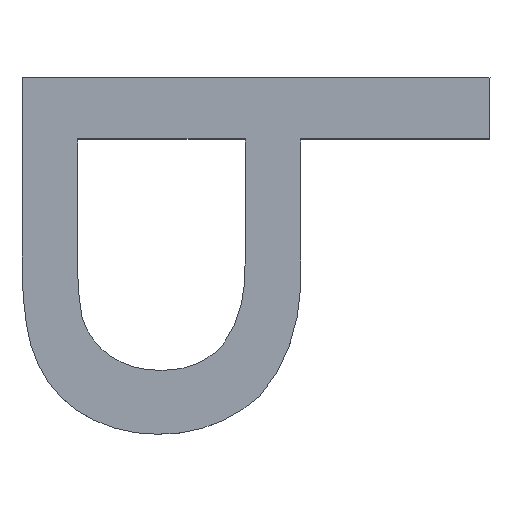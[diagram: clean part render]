
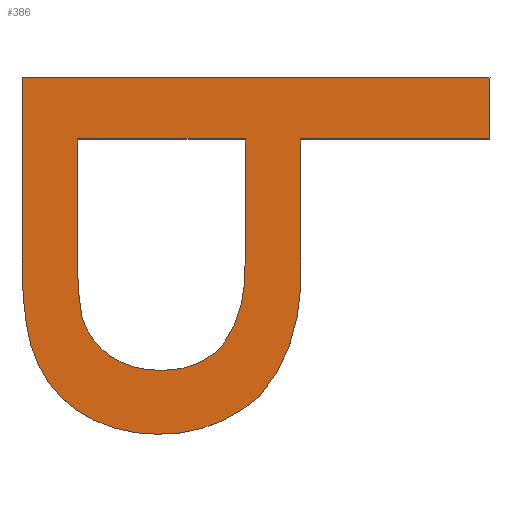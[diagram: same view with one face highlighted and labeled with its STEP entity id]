
A CAD part, top view. The second image highlights one B-rep face of the part: STEP entity #386.
In plain terms, the highlighted planar face has unit normal (0, 0, 1).
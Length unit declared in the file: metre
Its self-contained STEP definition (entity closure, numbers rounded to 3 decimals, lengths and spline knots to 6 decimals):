
#13=CIRCLE('',#399,0.000452);
#15=CIRCLE('',#402,0.000346);
#17=CIRCLE('',#405,0.000347);
#19=CIRCLE('',#408,0.000276);
#21=CIRCLE('',#411,0.000337);
#23=CIRCLE('',#414,0.001055);
#25=CIRCLE('',#421,0.000694);
#27=CIRCLE('',#424,0.000166);
#29=CIRCLE('',#427,0.000203);
#31=CIRCLE('',#430,0.000191);
#33=CIRCLE('',#433,0.000319);
#134=ORIENTED_EDGE('',*,*,#204,.T.);
#135=ORIENTED_EDGE('',*,*,#202,.T.);
#136=ORIENTED_EDGE('',*,*,#199,.T.);
#137=ORIENTED_EDGE('',*,*,#196,.T.);
#138=ORIENTED_EDGE('',*,*,#193,.T.);
#139=ORIENTED_EDGE('',*,*,#190,.T.);
#140=ORIENTED_EDGE('',*,*,#187,.T.);
#141=ORIENTED_EDGE('',*,*,#184,.T.);
#142=ORIENTED_EDGE('',*,*,#181,.T.);
#143=ORIENTED_EDGE('',*,*,#178,.T.);
#144=ORIENTED_EDGE('',*,*,#175,.T.);
#145=ORIENTED_EDGE('',*,*,#228,.T.);
#146=ORIENTED_EDGE('',*,*,#226,.T.);
#147=ORIENTED_EDGE('',*,*,#223,.T.);
#148=ORIENTED_EDGE('',*,*,#220,.T.);
#149=ORIENTED_EDGE('',*,*,#217,.T.);
#150=ORIENTED_EDGE('',*,*,#214,.T.);
#151=ORIENTED_EDGE('',*,*,#211,.T.);
#152=ORIENTED_EDGE('',*,*,#208,.T.);
#175=EDGE_CURVE('',#229,#232,#270,.T.);
#178=EDGE_CURVE('',#233,#229,#273,.F.);
#181=EDGE_CURVE('',#235,#233,#276,.F.);
#184=EDGE_CURVE('',#237,#235,#278,.F.);
#187=EDGE_CURVE('',#239,#237,#13,.F.);
#190=EDGE_CURVE('',#241,#239,#15,.F.);
#193=EDGE_CURVE('',#243,#241,#17,.F.);
#196=EDGE_CURVE('',#245,#243,#19,.F.);
#199=EDGE_CURVE('',#247,#245,#21,.F.);
#202=EDGE_CURVE('',#249,#247,#23,.F.);
#204=EDGE_CURVE('',#232,#249,#280,.T.);
#208=EDGE_CURVE('',#251,#254,#283,.T.);
#211=EDGE_CURVE('',#255,#251,#286,.F.);
#214=EDGE_CURVE('',#257,#255,#288,.F.);
#217=EDGE_CURVE('',#259,#257,#25,.T.);
#220=EDGE_CURVE('',#261,#259,#27,.T.);
#223=EDGE_CURVE('',#263,#261,#29,.T.);
#226=EDGE_CURVE('',#265,#263,#31,.T.);
#228=EDGE_CURVE('',#254,#265,#33,.T.);
#229=VERTEX_POINT('',#549);
#232=VERTEX_POINT('',#554);
#233=VERTEX_POINT('',#558);
#235=VERTEX_POINT('',#564);
#237=VERTEX_POINT('',#573);
#239=VERTEX_POINT('',#582);
#241=VERTEX_POINT('',#591);
#243=VERTEX_POINT('',#600);
#245=VERTEX_POINT('',#609);
#247=VERTEX_POINT('',#618);
#249=VERTEX_POINT('',#627);
#251=VERTEX_POINT('',#636);
#254=VERTEX_POINT('',#644);
#255=VERTEX_POINT('',#648);
#257=VERTEX_POINT('',#657);
#259=VERTEX_POINT('',#666);
#261=VERTEX_POINT('',#675);
#263=VERTEX_POINT('',#684);
#265=VERTEX_POINT('',#693);
#270=LINE('',#555,#292);
#273=LINE('',#561,#295);
#276=LINE('',#567,#298);
#278=LINE('',#576,#300);
#280=LINE('',#633,#302);
#283=LINE('',#645,#305);
#286=LINE('',#651,#308);
#288=LINE('',#660,#310);
#292=VECTOR('',#443,1.);
#295=VECTOR('',#448,1.);
#298=VECTOR('',#453,1.);
#300=VECTOR('',#457,1.);
#302=VECTOR('',#497,1.);
#305=VECTOR('',#502,1.);
#308=VECTOR('',#507,1.);
#310=VECTOR('',#511,1.);
#330=EDGE_LOOP('',(#134,#135,#136,#137,#138,#139,#140,#141,#142,#143,#144));
#331=EDGE_LOOP('',(#145,#146,#147,#148,#149,#150,#151,#152));
#353=FACE_BOUND('',#330,.T.);
#354=FACE_BOUND('',#331,.T.);
#365=PLANE('',#434);
#386=ADVANCED_FACE('',(#353,#354),#365,.F.);
#399=AXIS2_PLACEMENT_3D('',#585,#462,#463);
#402=AXIS2_PLACEMENT_3D('',#594,#468,#469);
#405=AXIS2_PLACEMENT_3D('',#603,#474,#475);
#408=AXIS2_PLACEMENT_3D('',#612,#480,#481);
#411=AXIS2_PLACEMENT_3D('',#621,#486,#487);
#414=AXIS2_PLACEMENT_3D('',#630,#492,#493);
#421=AXIS2_PLACEMENT_3D('',#669,#516,#517);
#424=AXIS2_PLACEMENT_3D('',#678,#522,#523);
#427=AXIS2_PLACEMENT_3D('',#687,#528,#529);
#430=AXIS2_PLACEMENT_3D('',#696,#534,#535);
#433=AXIS2_PLACEMENT_3D('',#699,#540,#541);
#434=AXIS2_PLACEMENT_3D('',#700,#542,#543);
#443=DIRECTION('',(-1.,0.,0.));
#448=DIRECTION('',(0.,-1.,0.));
#453=DIRECTION('',(-1.,0.,0.));
#457=DIRECTION('',(0.,-1.,0.));
#462=DIRECTION('',(0.,0.,-1.));
#463=DIRECTION('',(1.,0.,0.));
#468=DIRECTION('',(0.,0.,-1.));
#469=DIRECTION('',(1.,0.,0.));
#474=DIRECTION('',(0.,0.,-1.));
#475=DIRECTION('',(1.,0.,0.));
#480=DIRECTION('',(0.,0.,-1.));
#481=DIRECTION('',(1.,0.,0.));
#486=DIRECTION('',(0.,0.,-1.));
#487=DIRECTION('',(1.,0.,0.));
#492=DIRECTION('',(0.,0.,-1.));
#493=DIRECTION('',(1.,0.,0.));
#497=DIRECTION('',(0.,-1.,0.));
#502=DIRECTION('',(0.,-1.,0.));
#507=DIRECTION('',(-1.,0.,0.));
#511=DIRECTION('',(0.,-1.,0.));
#516=DIRECTION('',(0.,0.,-1.));
#517=DIRECTION('',(1.,0.,0.));
#522=DIRECTION('',(0.,0.,-1.));
#523=DIRECTION('',(1.,0.,0.));
#528=DIRECTION('',(0.,0.,-1.));
#529=DIRECTION('',(1.,0.,0.));
#534=DIRECTION('',(0.,0.,-1.));
#535=DIRECTION('',(1.,0.,0.));
#540=DIRECTION('',(0.,0.,-1.));
#541=DIRECTION('',(1.,0.,0.));
#542=DIRECTION('',(0.,0.,-1.));
#543=DIRECTION('',(0.,-1.,0.));
#549=CARTESIAN_POINT('',(-0.022188,-0.004465,-0.03));
#554=CARTESIAN_POINT('',(-0.02331,-0.004465,-0.03));
#555=CARTESIAN_POINT('',(-0.022871,-0.004465,-0.03));
#558=CARTESIAN_POINT('',(-0.022188,-0.004611,-0.03));
#561=CARTESIAN_POINT('',(-0.022188,-0.004796,-0.03));
#564=CARTESIAN_POINT('',(-0.022642,-0.004611,-0.03));
#567=CARTESIAN_POINT('',(-0.022871,-0.004611,-0.03));
#573=CARTESIAN_POINT('',(-0.022642,-0.004899,-0.03));
#576=CARTESIAN_POINT('',(-0.022642,-0.004796,-0.03));
#582=CARTESIAN_POINT('',(-0.022741,-0.005228,-0.03));
#585=CARTESIAN_POINT('',(-0.023094,-0.004952,-0.03));
#591=CARTESIAN_POINT('',(-0.022985,-0.005319,-0.03));
#594=CARTESIAN_POINT('',(-0.022975,-0.004972,-0.03));
#600=CARTESIAN_POINT('',(-0.023138,-0.005285,-0.03));
#603=CARTESIAN_POINT('',(-0.022989,-0.004972,-0.03));
#609=CARTESIAN_POINT('',(-0.023247,-0.005195,-0.03));
#612=CARTESIAN_POINT('',(-0.023023,-0.005034,-0.03));
#618=CARTESIAN_POINT('',(-0.0233,-0.005057,-0.03));
#621=CARTESIAN_POINT('',(-0.022965,-0.00501,-0.03));
#627=CARTESIAN_POINT('',(-0.02331,-0.004887,-0.03));
#630=CARTESIAN_POINT('',(-0.022255,-0.00491,-0.03));
#633=CARTESIAN_POINT('',(-0.02331,-0.004796,-0.03));
#636=CARTESIAN_POINT('',(-0.022776,-0.004611,-0.03));
#644=CARTESIAN_POINT('',(-0.022776,-0.004901,-0.03));
#645=CARTESIAN_POINT('',(-0.022776,-0.004796,-0.03));
#648=CARTESIAN_POINT('',(-0.023177,-0.004611,-0.03));
#651=CARTESIAN_POINT('',(-0.022871,-0.004611,-0.03));
#657=CARTESIAN_POINT('',(-0.023177,-0.004898,-0.03));
#660=CARTESIAN_POINT('',(-0.023177,-0.004796,-0.03));
#666=CARTESIAN_POINT('',(-0.023167,-0.005036,-0.03));
#669=CARTESIAN_POINT('',(-0.022483,-0.004923,-0.03));
#675=CARTESIAN_POINT('',(-0.0231,-0.00513,-0.03));
#678=CARTESIAN_POINT('',(-0.023006,-0.004993,-0.03));
#684=CARTESIAN_POINT('',(-0.02298,-0.005166,-0.03));
#687=CARTESIAN_POINT('',(-0.022986,-0.004962,-0.03));
#693=CARTESIAN_POINT('',(-0.022829,-0.005105,-0.03));
#696=CARTESIAN_POINT('',(-0.022968,-0.004974,-0.03));
#699=CARTESIAN_POINT('',(-0.023095,-0.004932,-0.03));
#700=CARTESIAN_POINT('',(-0.022871,-0.004796,-0.03));
